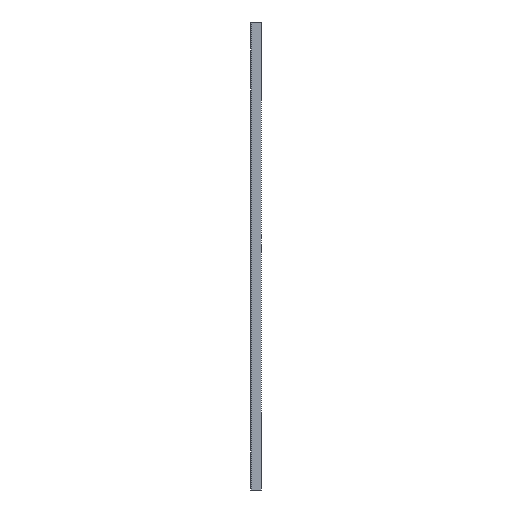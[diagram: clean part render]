
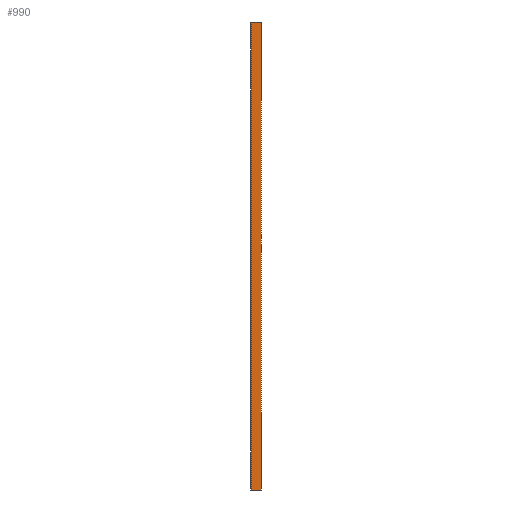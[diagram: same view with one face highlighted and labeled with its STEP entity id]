
A CAD part, left-side view. The second image highlights one B-rep face of the part: STEP entity #990.
In plain terms, the highlighted planar face has unit normal (-1, 0, 0).
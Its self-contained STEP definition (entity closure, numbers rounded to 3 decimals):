
#20 = ORIENTED_EDGE ( 'NONE', *, *, #1001, .F. ) ;
#23 = VERTEX_POINT ( 'NONE', #173 ) ;
#82 = CARTESIAN_POINT ( 'NONE',  ( -705.5, 0., -854. ) ) ;
#112 = CARTESIAN_POINT ( 'NONE',  ( -705.5, -20., -854. ) ) ;
#116 = LINE ( 'NONE', #112, #389 ) ;
#146 = EDGE_CURVE ( 'NONE', #23, #343, #116, .T. ) ;
#173 = CARTESIAN_POINT ( 'NONE',  ( -705.5, -20., -854. ) ) ;
#187 = DIRECTION ( 'NONE',  ( 0., 1., 0. ) ) ;
#189 = AXIS2_PLACEMENT_3D ( 'NONE', #608, #1038, #516 ) ;
#334 = VERTEX_POINT ( 'NONE', #580 ) ;
#343 = VERTEX_POINT ( 'NONE', #1042 ) ;
#355 = LINE ( 'NONE', #707, #681 ) ;
#364 = DIRECTION ( 'NONE',  ( 0., 0., 1. ) ) ;
#389 = VECTOR ( 'NONE', #1060, 1000. ) ;
#430 = DIRECTION ( 'NONE',  ( 0., 0., 1. ) ) ;
#440 = CARTESIAN_POINT ( 'NONE',  ( -705.5, -20., 50. ) ) ;
#516 = DIRECTION ( 'NONE',  ( 0., 0., 1. ) ) ;
#518 = ORIENTED_EDGE ( 'NONE', *, *, #1004, .T. ) ;
#580 = CARTESIAN_POINT ( 'NONE',  ( -705.5, 0., 50. ) ) ;
#589 = FACE_OUTER_BOUND ( 'NONE', #656, .T. ) ;
#608 = CARTESIAN_POINT ( 'NONE',  ( -705.5, -20., -854. ) ) ;
#634 = VECTOR ( 'NONE', #430, 1000. ) ;
#656 = EDGE_LOOP ( 'NONE', ( #20, #673, #840, #518 ) ) ;
#673 = ORIENTED_EDGE ( 'NONE', *, *, #146, .F. ) ;
#681 = VECTOR ( 'NONE', #364, 1000. ) ;
#686 = VECTOR ( 'NONE', #187, 1000. ) ;
#707 = CARTESIAN_POINT ( 'NONE',  ( -705.5, -20., -854. ) ) ;
#835 = EDGE_CURVE ( 'NONE', #23, #1130, #355, .T. ) ;
#840 = ORIENTED_EDGE ( 'NONE', *, *, #835, .T. ) ;
#854 = LINE ( 'NONE', #964, #686 ) ;
#860 = LINE ( 'NONE', #82, #634 ) ;
#870 = PLANE ( 'NONE',  #189 ) ;
#964 = CARTESIAN_POINT ( 'NONE',  ( -705.5, -20., 50. ) ) ;
#990 = ADVANCED_FACE ( 'NONE', ( #589 ), #870, .T. ) ;
#1001 = EDGE_CURVE ( 'NONE', #343, #334, #860, .T. ) ;
#1004 = EDGE_CURVE ( 'NONE', #1130, #334, #854, .T. ) ;
#1038 = DIRECTION ( 'NONE',  ( -1., 0., 0. ) ) ;
#1042 = CARTESIAN_POINT ( 'NONE',  ( -705.5, 0., -854. ) ) ;
#1060 = DIRECTION ( 'NONE',  ( 0., 1., 0. ) ) ;
#1130 = VERTEX_POINT ( 'NONE', #440 ) ;
